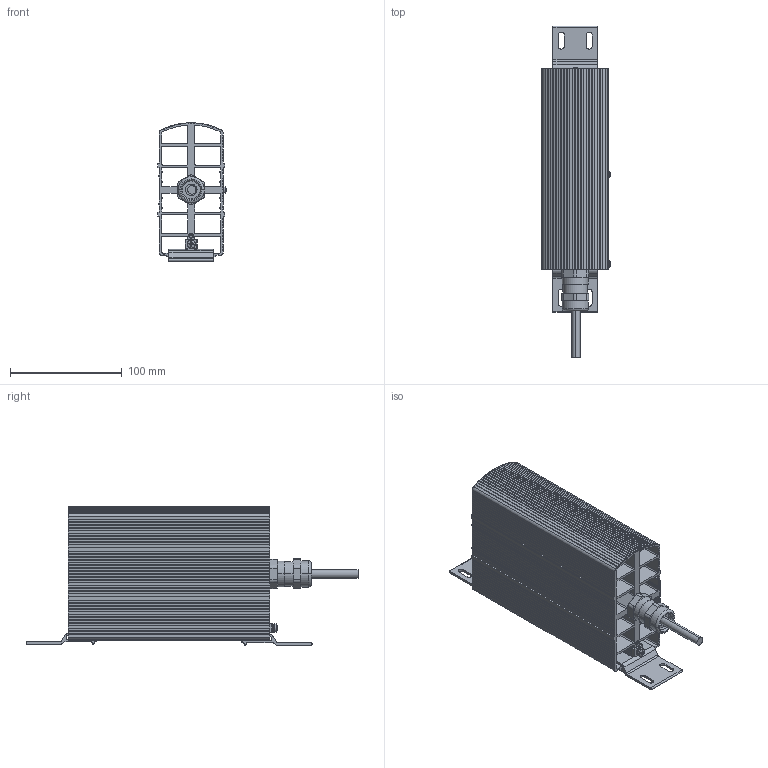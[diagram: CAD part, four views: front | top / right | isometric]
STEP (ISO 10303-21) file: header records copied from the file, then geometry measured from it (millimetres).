
FILE_DESCRIPTION (( 'STEP AP214' ), '1' );
FILE_NAME ('02051.x-1x_Ex-Heizgeraet.STEP', '2017-08-09T14:33:45', ( '' ), ( '' ), 'SwSTEP 2.0', 'SolidWorks 2017', '' );
FILE_SCHEMA (( 'AUTOMOTIVE_DESIGN' ));
Length unit declared in the file: millimetre
Products named in the file (1): 02051.x-1x_Ex-Heizgeraet
Bounding box: 61.42 x 297 x 123.8 mm (x, y, z)
Surface area: 262283.1 mm2 (no closed solid volume)
Topology: 0 solids, 12 shells, 694 faces, 2612 edges, 1804 vertices
Faces by surface type: plane 493, cylinder 161, cone 27, torus 6, sphere 6, bspline 1
Entity records: 35278 total; most frequent: CARTESIAN_POINT 5812, ORIENTED_EDGE 4421, DIRECTION 4303, EDGE_CURVE 2612, VECTOR 2075, LINE 2075, VERTEX_POINT 1804, AXIS2_PLACEMENT_3D 1114
